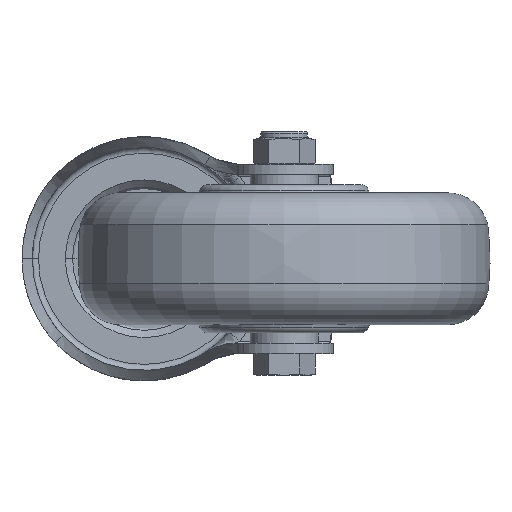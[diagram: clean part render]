
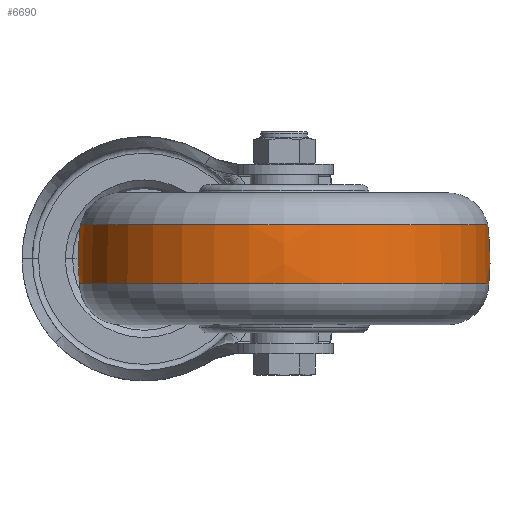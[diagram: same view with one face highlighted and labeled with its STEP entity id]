
A CAD part, front view. The second image highlights one B-rep face of the part: STEP entity #6690.
In plain terms, the highlighted free-form (B-spline) face has degree [3, 3] with [7, 4] control points.
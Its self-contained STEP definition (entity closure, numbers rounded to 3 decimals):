
#6075=CARTESIAN_POINT('',(-6.012,0.,0.));
#6076=DIRECTION('',(-1.,0.,0.));
#6077=DIRECTION('',(0.,1.,0.));
#6078=AXIS2_PLACEMENT_3D('',#6075,#6076,#6077);
#6090=CARTESIAN_POINT('',(0.,-11.437,0.));
#6091=DIRECTION('',(0.,0.,1.));
#6092=DIRECTION('',(0.135,0.991,0.));
#6093=AXIS2_PLACEMENT_3D('',#6090,#6091,#6092);
#6095=CARTESIAN_POINT('',(0.,11.437,0.));
#6096=DIRECTION('',(0.,0.,-1.));
#6097=DIRECTION('',(0.135,-0.991,0.));
#6098=AXIS2_PLACEMENT_3D('',#6095,#6096,#6097);
#6100=CARTESIAN_POINT('',(8.303,0.,0.));
#6101=DIRECTION('',(-1.,0.,0.));
#6102=DIRECTION('',(0.,1.,0.));
#6103=AXIS2_PLACEMENT_3D('',#6100,#6101,#6102);
#6315=CARTESIAN_POINT('',(-6.012,49.697,0.));
#6317=VERTEX_POINT('',#6315);
#6319=CARTESIAN_POINT('',(-6.012,-49.697,
0.));
#6321=VERTEX_POINT('',#6319);
#6348=CARTESIAN_POINT('',(8.303,49.428,0.));
#6350=VERTEX_POINT('',#6348);
#6352=CARTESIAN_POINT('',(8.303,-49.428,
0.));
#6354=VERTEX_POINT('',#6352);
#6654=CARTESIAN_POINT('',(-6.298,-49.57,
3.119));
#6655=CARTESIAN_POINT('',(-1.337,-50.08,
3.151));
#6656=CARTESIAN_POINT('',(3.649,-49.987,3.145));
#6657=CARTESIAN_POINT('',(8.587,-49.291,3.101));
#6658=CARTESIAN_POINT('',(-6.298,-51.489,
-27.387));
#6659=CARTESIAN_POINT('',(-1.337,-52.019,
-27.668));
#6660=CARTESIAN_POINT('',(3.649,-51.922,
-27.617));
#6661=CARTESIAN_POINT('',(8.587,-51.199,
-27.232));
#6662=CARTESIAN_POINT('',(-6.298,-30.566,
-49.668));
#6663=CARTESIAN_POINT('',(-1.337,-30.88,
-50.179));
#6664=CARTESIAN_POINT('',(3.649,-30.823,
-50.085));
#6665=CARTESIAN_POINT('',(8.587,-30.393,
-49.388));
#6666=CARTESIAN_POINT('',(-6.298,0.,-49.668));
#6667=CARTESIAN_POINT('',(-1.337,0.,-50.179));
#6668=CARTESIAN_POINT('',(3.649,0.,
-50.085));
#6669=CARTESIAN_POINT('',(8.587,0.,-49.388));
#6670=CARTESIAN_POINT('',(-6.298,30.566,
-49.668));
#6671=CARTESIAN_POINT('',(-1.337,30.88,
-50.179));
#6672=CARTESIAN_POINT('',(3.649,30.823,-50.085));
#6673=CARTESIAN_POINT('',(8.587,30.393,-49.388));
#6674=CARTESIAN_POINT('',(-6.298,51.489,
-27.387));
#6675=CARTESIAN_POINT('',(-1.337,52.019,
-27.668));
#6676=CARTESIAN_POINT('',(3.649,51.922,-27.617));
#6677=CARTESIAN_POINT('',(8.587,51.199,-27.232));
#6678=CARTESIAN_POINT('',(-6.298,49.57,3.119));
#6679=CARTESIAN_POINT('',(-1.337,50.08,3.151));
#6680=CARTESIAN_POINT('',(3.649,49.987,3.145));
#6681=CARTESIAN_POINT('',(8.587,49.291,3.101));
#6682=(BOUNDED_SURFACE()B_SPLINE_SURFACE(3,3,((#6654,#6655,#6656,#6657),(#6658,
#6659,#6660,#6661),(#6662,#6663,#6664,#6665),(#6666,#6667,#6668,#6669),(#6670,
#6671,#6672,#6673),(#6674,#6675,#6676,#6677),(#6678,#6679,#6680,#6681)),
.UNSPECIFIED.,.F.,.F.,.F.)B_SPLINE_SURFACE_WITH_KNOTS((4,3,4),(4,4),(0.,1.,
2.),(0.,1.),.UNSPECIFIED.)GEOMETRIC_REPRESENTATION_ITEM()RATIONAL_B_SPLINE_SURFACE(((1.192,1.186,1.186,1.192),(
0.941,0.936,0.936,0.941),(
0.941,0.936,0.936,0.941),(
1.192,1.186,1.186,1.192),(
0.941,0.936,0.936,0.941),(
0.941,0.936,0.936,0.941),(
1.192,1.186,1.186,1.192)))REPRESENTATION_ITEM('')SURFACE());
#6683=ORIENTED_EDGE('',*,*,#6644,.T.);
#6684=ORIENTED_EDGE('',*,*,#6597,.T.);
#6685=ORIENTED_EDGE('',*,*,#6648,.F.);
#6687=ORIENTED_EDGE('',*,*,#6686,.F.);
#6688=EDGE_LOOP('',(#6683,#6684,#6685,#6687));
#6689=FACE_OUTER_BOUND('',#6688,.F.);
#6079=CIRCLE('',#6078,49.697);
#6094=CIRCLE('',#6093,61.429);
#6099=CIRCLE('',#6098,61.429);
#6104=CIRCLE('',#6103,49.428);
#6597=EDGE_CURVE('',#6317,#6321,#6079,.T.);
#6644=EDGE_CURVE('',#6350,#6317,#6094,.T.);
#6648=EDGE_CURVE('',#6354,#6321,#6099,.T.);
#6686=EDGE_CURVE('',#6350,#6354,#6104,.T.);
#6690=ADVANCED_FACE('',(#6689),#6682,.T.);
